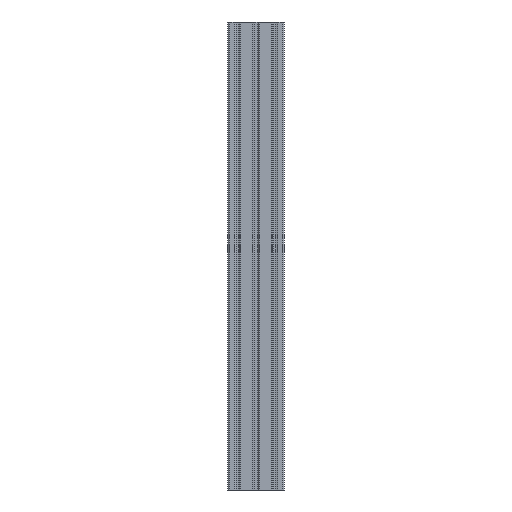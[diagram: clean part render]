
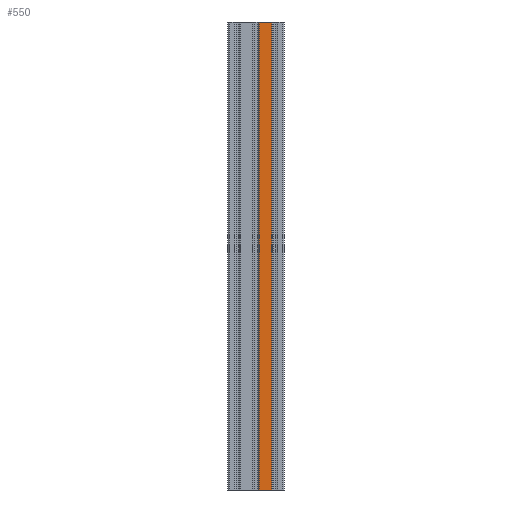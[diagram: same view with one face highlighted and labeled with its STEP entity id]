
A CAD part, front view. The second image highlights one B-rep face of the part: STEP entity #550.
In plain terms, the highlighted planar face has unit normal (0, -1, 0).
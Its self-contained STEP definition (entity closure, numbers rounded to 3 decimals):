
#27 = FACE_OUTER_BOUND ( 'NONE', #1592, .T. ) ;
#158 = CARTESIAN_POINT ( 'NONE',  ( 3.3, -10., 250. ) ) ;
#192 = DIRECTION ( 'NONE',  ( 1., 0., 0. ) ) ;
#328 = VECTOR ( 'NONE', #2813, 1000. ) ;
#550 = ADVANCED_FACE ( 'NONE', ( #27 ), #2932, .T. ) ;
#637 = EDGE_CURVE ( 'NONE', #5395, #1148, #1835, .T. ) ;
#815 = DIRECTION ( 'NONE',  ( 1., 0., 0. ) ) ;
#836 = EDGE_CURVE ( 'NONE', #1728, #2682, #2765, .T. ) ;
#876 = ORIENTED_EDGE ( 'NONE', *, *, #1093, .F. ) ;
#1073 = ORIENTED_EDGE ( 'NONE', *, *, #637, .F. ) ;
#1093 = EDGE_CURVE ( 'NONE', #2682, #5395, #3627, .T. ) ;
#1123 = DIRECTION ( 'NONE',  ( 0., -1., 0. ) ) ;
#1148 = VERTEX_POINT ( 'NONE', #4370 ) ;
#1538 = CARTESIAN_POINT ( 'NONE',  ( 3.3, -10., -250. ) ) ;
#1592 = EDGE_LOOP ( 'NONE', ( #5745, #2651, #1073, #876 ) ) ;
#1728 = VERTEX_POINT ( 'NONE', #5408 ) ;
#1835 = LINE ( 'NONE', #2228, #4951 ) ;
#2228 = CARTESIAN_POINT ( 'NONE',  ( -30., -10., 250. ) ) ;
#2543 = AXIS2_PLACEMENT_3D ( 'NONE', #3827, #1123, #192 ) ;
#2651 = ORIENTED_EDGE ( 'NONE', *, *, #3829, .T. ) ;
#2682 = VERTEX_POINT ( 'NONE', #4115 ) ;
#2765 = LINE ( 'NONE', #2836, #328 ) ;
#2813 = DIRECTION ( 'NONE',  ( -1., 0., 0. ) ) ;
#2836 = CARTESIAN_POINT ( 'NONE',  ( -30., -10., -250. ) ) ;
#2932 = PLANE ( 'NONE',  #2543 ) ;
#3165 = VECTOR ( 'NONE', #3425, 1000. ) ;
#3302 = DIRECTION ( 'NONE',  ( 0., 0., 1. ) ) ;
#3425 = DIRECTION ( 'NONE',  ( 0., 0., 1. ) ) ;
#3627 = LINE ( 'NONE', #1538, #4569 ) ;
#3827 = CARTESIAN_POINT ( 'NONE',  ( -30., -10., -313.246 ) ) ;
#3829 = EDGE_CURVE ( 'NONE', #1728, #1148, #5545, .T. ) ;
#3830 = CARTESIAN_POINT ( 'NONE',  ( 16.7, -10., -250. ) ) ;
#4115 = CARTESIAN_POINT ( 'NONE',  ( 3.3, -10., -250. ) ) ;
#4370 = CARTESIAN_POINT ( 'NONE',  ( 16.7, -10., 250. ) ) ;
#4569 = VECTOR ( 'NONE', #3302, 1000. ) ;
#4951 = VECTOR ( 'NONE', #815, 1000. ) ;
#5395 = VERTEX_POINT ( 'NONE', #158 ) ;
#5408 = CARTESIAN_POINT ( 'NONE',  ( 16.7, -10., -250. ) ) ;
#5545 = LINE ( 'NONE', #3830, #3165 ) ;
#5745 = ORIENTED_EDGE ( 'NONE', *, *, #836, .F. ) ;
